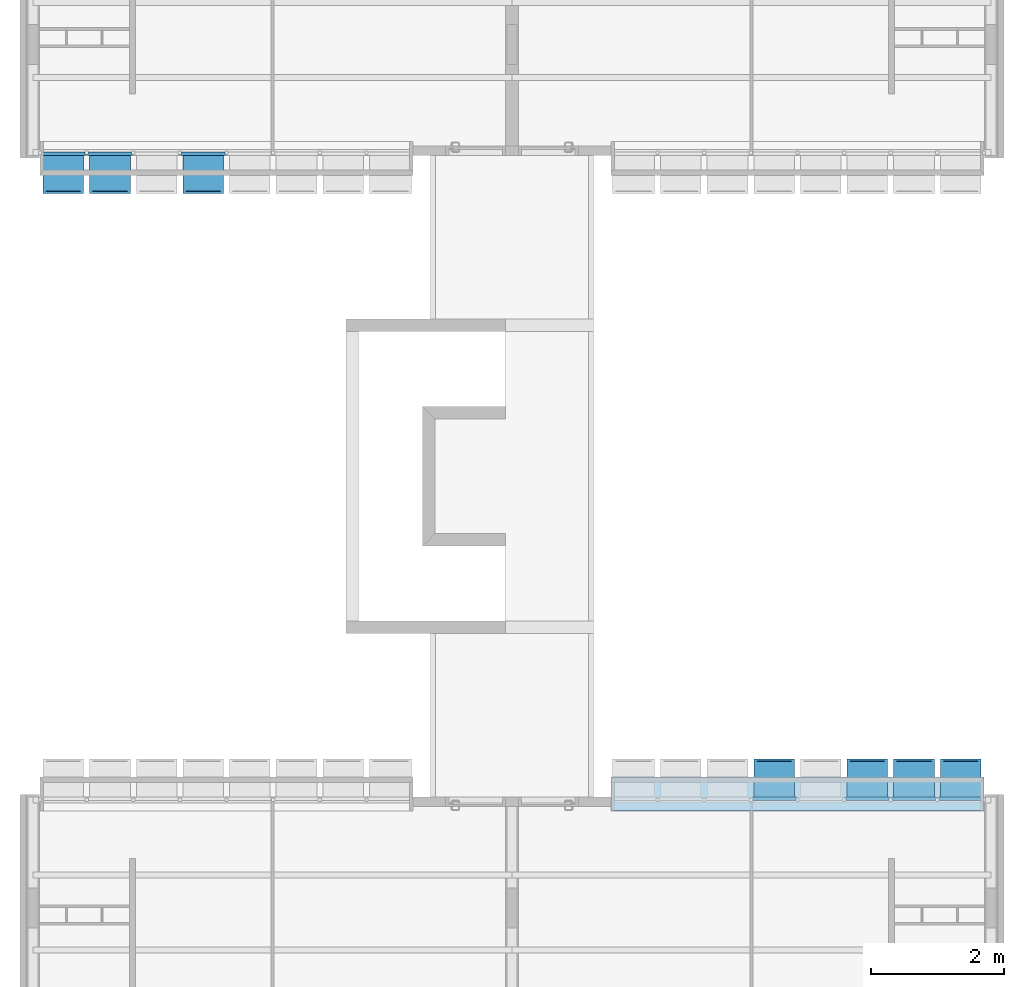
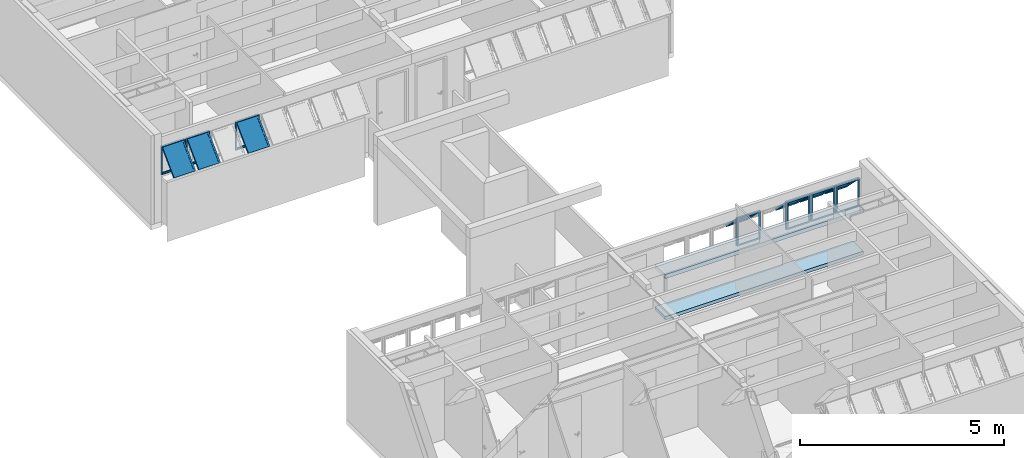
# One storey, part 10 of 40: 7 plates, 2 slabs, 2 elements without a shape of their own.
"""IFC4 building model written with IfcOpenShell, lengths in millimetres."""

from ifc_helpers import new_model, entity, si_unit, converted_unit, derived_unit, direction, frame, origin_with_axes, place, context, subcontext, project, spatial, line, indexed_curve, outline, extrude, polygons, source, transform, mapped, material, layer, layer_set, layer_usage, constituent, constituent_set, type_object, element, aggregate, save


model = new_model("IFC4")

# Units and contexts
model_context = context("Model", 3, precision=0.01, world=origin_with_axes(), true_north=direction((0.0, 1.0)))
body_context = subcontext(model_context, "Body", "Model", "MODEL_VIEW")
ifc_project = project(units=[si_unit("LENGTHUNIT", "METRE", prefix="MILLI"), si_unit("AREAUNIT", "SQUARE_METRE"), si_unit("VOLUMEUNIT", "CUBIC_METRE"), converted_unit("PLANEANGLEUNIT", "DEGREE", entity("IfcPlaneAngleMeasure", 0.0174532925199), si_unit("PLANEANGLEUNIT", "RADIAN"), dimensions=[0, 0, 0, 0, 0, 0, 0]), converted_unit("TIMEUNIT", "Year", entity("IfcTimeMeasure", 31556926.0), si_unit("TIMEUNIT", "SECOND"), dimensions=[0, 0, 1, 0, 0, 0, 0]), si_unit("MASSUNIT", "GRAM", prefix="KILO"), si_unit("THERMODYNAMICTEMPERATUREUNIT", "DEGREE_CELSIUS"), si_unit("LUMINOUSINTENSITYUNIT", "LUMEN"), si_unit("ENERGYUNIT", "JOULE", prefix="MEGA"), derived_unit("THERMALCONDUCTANCEUNIT", [(si_unit("POWERUNIT", "WATT"), 1), (si_unit("LENGTHUNIT", "METRE"), -1), (si_unit("THERMODYNAMICTEMPERATUREUNIT", "KELVIN"), -1)]), derived_unit("SPECIFICHEATCAPACITYUNIT", [(si_unit("ENERGYUNIT", "JOULE"), 1), (si_unit("MASSUNIT", "GRAM", prefix="KILO"), -1), (si_unit("THERMODYNAMICTEMPERATUREUNIT", "KELVIN"), -1)]), derived_unit("MASSDENSITYUNIT", [(si_unit("MASSUNIT", "GRAM", prefix="KILO"), 1), (si_unit("VOLUMEUNIT", "CUBIC_METRE"), -1)])], contexts=[model_context])

# Site, building, storey
site_placement = place(None, origin_with_axes())
site = spatial("IfcSite", under=ifc_project, at=site_placement, Name="Local", CompositionType="ELEMENT")
building_placement = place(site_placement, origin_with_axes())
building = spatial("IfcBuilding", under=site, at=building_placement, Name="Construção", CompositionType="ELEMENT")
storey_placement = place(building_placement, frame((0.0, 0.0, 5300.0), z_axis=(0.0, 0.0, 1.0), x_axis=(1.0, 0.0, 0.0)))
storey = spatial("IfcBuildingStorey", under=building, at=storey_placement, Name="Terceiro Pavimento", CompositionType="ELEMENT", Elevation=5300.0)

# Slab
ifc_material_1 = material(Name="Concreto Armado Moldado in Loco - Estrutural")
ifc_layer_1 = layer(ifc_material_1, 120.0, ventilated="UNKNOWN", Name="Concreto Armado Moldado in Loco - Estrutural")
ifc_layer_set_1 = layer_set([ifc_layer_1], Name="Concreto Armado Moldado in Loco - Estrutural 120")
ifc_layer_usage_1 = layer_usage(ifc_layer_set_1, "AXIS3", "NEGATIVE", 120.0)
slab_type_1 = type_object("IfcSlabType", Name="Concreto Armado Moldado in Loco - Estrutural 120", PredefinedType="FLOOR")
slab_1_placement = place(storey_placement, frame((14470.0, 8564.99999866, 1355.0), z_axis=(0.0, 0.0, 1.0), x_axis=(1.0, 0.0, 0.0)))
element("IfcSlab", 1, at=slab_1_placement, inside=storey, type_object=slab_type_1, material=ifc_layer_usage_1, Name="APTO10-LAJE-003", PredefinedType="FLOOR", context=body_context, shape_type="SweptSolid", body=[
    extrude(outline(indexed_curve([(0.0, 0.0), (-5600.0, 0.0), (-5600.0, -510.0), (0.0, -510.0)], segments=[line(1, 2, 3, 4, 1)])), frame((0.0, 0.0, -120.0), z_axis=(0.0, 0.0, 1.0), x_axis=(1.0, 0.0, 0.0)), (0.0, 0.0, 1.0), 120.0),
])

# Window, plate
window_type = type_object("IfcWindowType", Name="Tipo de Parede Cortina", PartitioningType="NOTDEFINED", PredefinedType="NOTDEFINED")
window_1_placement = place(storey_placement, frame((2750.0, 17910.0, 1355.00007107), z_axis=(0.0, 0.0, 1.0), x_axis=(1.0, 0.0, 0.0)))
window_1 = element("IfcWindow", 2, at=window_1_placement, inside=storey, type_object=window_type, Name="APTO11-JANELA-000", PredefinedType="NOTDEFINED")
ifc_material_2 = material(Name="Alumínio")
ifc_constituent_1 = constituent(ifc_material_2, Name="Alumínio")
ifc_material_3 = material(Name="Vidro")
ifc_constituent_2 = constituent(ifc_material_3, Name="Vidro")
ifc_constituent_set_1 = constituent_set(constituents=[ifc_constituent_1, ifc_constituent_2])
plate_type = type_object("IfcPlateType", Name="Painel Principal 690 x 845 x 20", PredefinedType="CURTAIN_PANEL")
shared_shape_1 = source(origin_with_axes(), body_context, "Body", "Tessellation", [
    polygons([(25.0000036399, 0.0, -40.0), (674.999997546, 0.0, -40.0), (674.999997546, 0.0, -35.0), (25.0000036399, 0.0, -35.0), (70.0000036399, 45.0, -40.0), (629.999997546, 45.0, -40.0), (629.999997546, 45.0, -35.0), (70.0000036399, 45.0, -35.0)], [[[1, 2, 3, 4]], [[1, 5, 6, 2]], [[2, 6, 7, 3]], [[4, 3, 7, 8]], [[5, 1, 4, 8]], [[6, 5, 8, 7]]], closed=True),
    polygons([(674.999997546, 0.0, -40.0), (674.999997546, 844.999891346, -40.0), (674.999997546, 844.999891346, -35.0), (674.999997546, 0.0, -35.0), (629.999997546, 45.0, -40.0), (629.999997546, 799.999891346, -40.0), (629.999997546, 799.999891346, -35.0), (629.999997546, 45.0, -35.0)], [[[1, 2, 3, 4]], [[1, 5, 6, 2]], [[2, 6, 7, 3]], [[4, 3, 7, 8]], [[5, 1, 4, 8]], [[6, 5, 8, 7]]], closed=True),
    polygons([(25.0000036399, 844.999891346, -40.0), (70.0000036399, 799.999891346, -40.0), (70.0000036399, 799.999891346, -35.0), (25.0000036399, 844.999891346, -35.0), (674.999997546, 844.999891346, -40.0), (629.999997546, 799.999891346, -40.0), (629.999997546, 799.999891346, -35.0), (674.999997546, 844.999891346, -35.0)], [[[1, 2, 3, 4]], [[1, 5, 6, 2]], [[2, 6, 7, 3]], [[4, 3, 7, 8]], [[5, 1, 4, 8]], [[6, 5, 8, 7]]], closed=True),
    polygons([(25.0000036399, 0.0, -40.0), (70.0000036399, 45.0, -40.0), (70.0000036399, 45.0, -35.0), (25.0000036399, 0.0, -35.0), (25.0000036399, 844.999891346, -40.0), (70.0000036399, 799.999891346, -40.0), (70.0000036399, 799.999891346, -35.0), (25.0000036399, 844.999891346, -35.0)], [[[1, 2, 3, 4]], [[1, 5, 6, 2]], [[2, 6, 7, 3]], [[4, 3, 7, 8]], [[5, 1, 4, 8]], [[6, 5, 8, 7]]], closed=True),
    polygons([(25.0000036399, 0.0, -35.0), (674.999997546, 0.0, -35.0), (674.999997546, 0.0, 15.0), (25.0000036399, 0.0, 15.0), (45.0000036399, 20.0, -35.0), (654.999997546, 20.0, -35.0), (654.999997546, 20.0, 15.0), (45.0000036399, 20.0, 15.0)], [[[1, 2, 3, 4]], [[1, 5, 6, 2]], [[2, 6, 7, 3]], [[4, 3, 7, 8]], [[5, 1, 4, 8]], [[6, 5, 8, 7]]], closed=True),
    polygons([(674.999997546, 0.0, -35.0), (674.999997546, 844.999891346, -35.0), (674.999997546, 844.999891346, 15.0), (674.999997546, 0.0, 15.0), (654.999997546, 20.0, -35.0), (654.999997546, 824.999891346, -35.0), (654.999997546, 824.999891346, 15.0), (654.999997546, 20.0, 15.0)], [[[1, 2, 3, 4]], [[1, 5, 6, 2]], [[2, 6, 7, 3]], [[4, 3, 7, 8]], [[5, 1, 4, 8]], [[6, 5, 8, 7]]], closed=True),
    polygons([(25.0000036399, 844.999891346, -35.0), (45.0000036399, 824.999891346, -35.0), (45.0000036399, 824.999891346, 15.0), (25.0000036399, 844.999891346, 15.0), (674.999997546, 844.999891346, -35.0), (654.999997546, 824.999891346, -35.0), (654.999997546, 824.999891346, 15.0), (674.999997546, 844.999891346, 15.0)], [[[1, 2, 3, 4]], [[1, 5, 6, 2]], [[2, 6, 7, 3]], [[4, 3, 7, 8]], [[5, 1, 4, 8]], [[6, 5, 8, 7]]], closed=True),
    polygons([(25.0000036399, 0.0, -35.0), (45.0000036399, 20.0, -35.0), (45.0000036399, 20.0, 15.0), (25.0000036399, 0.0, 15.0), (25.0000036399, 844.999891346, -35.0), (45.0000036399, 824.999891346, -35.0), (45.0000036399, 824.999891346, 15.0), (25.0000036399, 844.999891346, 15.0)], [[[1, 2, 3, 4]], [[1, 5, 6, 2]], [[2, 6, 7, 3]], [[4, 3, 7, 8]], [[5, 1, 4, 8]], [[6, 5, 8, 7]]], closed=True),
    polygons([(694.999995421, 0.0, -10.0), (694.999995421, 844.999891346, -10.0), (694.999995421, 844.999891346, 10.0), (694.999995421, 0.0, 10.0), (674.999997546, 0.0, -10.0), (674.999997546, 844.999891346, -10.0), (674.999997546, 844.999891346, 10.0), (674.999997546, 0.0, 10.0)], [[[1, 2, 3, 4]], [[1, 5, 6, 2]], [[2, 6, 7, 3]], [[4, 3, 7, 8]], [[5, 1, 4, 8]], [[6, 5, 8, 7]]], closed=True),
    polygons([(5.00000576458, 844.999891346, -10.0), (5.00000576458, 0.0, -10.0), (5.00000576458, 0.0, 10.0), (5.00000576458, 844.999891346, 10.0), (25.0000036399, 844.999891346, -10.0), (25.0000036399, 0.0, -10.0), (25.0000036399, 0.0, 10.0), (25.0000036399, 844.999891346, 10.0)], [[[1, 2, 3, 4]], [[1, 5, 6, 2]], [[2, 6, 7, 3]], [[4, 3, 7, 8]], [[5, 1, 4, 8]], [[6, 5, 8, 7]]], closed=True),
    polygons([(90.0000036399, 252.243475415, 517.045737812), (90.0000036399, 757.824747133, 11.4644660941), (90.0000036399, 796.715620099, 50.3553390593), (90.0000036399, 291.13434838, 555.936610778), (45.0000036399, 220.423670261, 548.865542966), (45.0000036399, 789.644552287, -20.3553390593), (45.0000036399, 828.535425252, 18.5355339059), (45.0000036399, 259.314543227, 587.756415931)], [[[1, 2, 3, 4]], [[1, 5, 6, 2]], [[2, 6, 7, 3]], [[4, 3, 7, 8]], [[5, 1, 4, 8]], [[6, 5, 8, 7]]], closed=True),
    polygons([(654.999997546, 220.423670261, 548.865542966), (654.999997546, 789.644552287, -20.3553390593), (654.999997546, 828.535425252, 18.5355339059), (654.999997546, 259.314543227, 587.756415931), (609.999997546, 252.243475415, 517.045737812), (609.999997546, 757.824747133, 11.4644660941), (609.999997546, 796.715620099, 50.3553390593), (609.999997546, 291.13434838, 555.936610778)], [[[1, 2, 3, 4]], [[1, 5, 6, 2]], [[2, 6, 7, 3]], [[4, 3, 7, 8]], [[5, 1, 4, 8]], [[6, 5, 8, 7]]], closed=True),
    polygons([(654.999997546, 220.423670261, 548.865542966), (609.999997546, 252.243475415, 517.045737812), (609.999997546, 291.13434838, 555.936610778), (654.999997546, 259.314543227, 587.756415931), (45.0000036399, 220.423670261, 548.865542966), (90.0000036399, 252.243475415, 517.045737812), (90.0000036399, 291.13434838, 555.936610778), (45.0000036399, 259.314543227, 587.756415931)], [[[1, 2, 3, 4]], [[1, 5, 6, 2]], [[2, 6, 7, 3]], [[4, 3, 7, 8]], [[5, 1, 4, 8]], [[6, 5, 8, 7]]], closed=True),
    polygons([(45.0000036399, 789.644552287, -20.3553390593), (90.0000036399, 757.824747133, 11.4644660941), (90.0000036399, 796.715620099, 50.3553390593), (45.0000036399, 828.535425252, 18.5355339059), (654.999997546, 789.644552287, -20.3553390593), (609.999997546, 757.824747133, 11.4644660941), (609.999997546, 796.715620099, 50.3553390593), (654.999997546, 828.535425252, 18.5355339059)], [[[1, 2, 3, 4]], [[1, 5, 6, 2]], [[2, 6, 7, 3]], [[4, 3, 7, 8]], [[5, 1, 4, 8]], [[6, 5, 8, 7]]], closed=True),
    polygons([(90.0000036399, 272.749572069, 537.551834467), (609.999997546, 272.749572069, 537.551834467), (609.999997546, 284.063280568, 548.865542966), (90.0000036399, 284.063280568, 548.865542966), (90.0000036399, 778.330843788, 31.9705627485), (609.999997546, 778.330843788, 31.9705627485), (609.999997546, 789.644552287, 43.2842712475), (90.0000036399, 789.644552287, 43.2842712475)], [[[1, 2, 3, 4]], [[1, 5, 6, 2]], [[2, 6, 7, 3]], [[4, 3, 7, 8]], [[5, 1, 4, 8]], [[6, 5, 8, 7]]], closed=True),
])
plate_1_placement = place(window_1_placement, frame((0.0, 0.0, 422.499964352), z_axis=(0.0, 0.0, 1.0), x_axis=(-1.0, 0.0, 0.0)))
plate_1 = element("IfcPlate", 3, at=plate_1_placement, type_object=plate_type, material=ifc_constituent_set_1, Name="APTO11-Painel-Prin-013", PredefinedType="CURTAIN_PANEL", context=body_context, shape_type="MappedRepresentation", body=[
    mapped(shared_shape_1, transform((350.0, 0.0, -422.499964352), x_axis=(-1.0, 0.0, 0.0), y_axis=(0.0, 0.0, 1.0), z_axis=(0.0, 1.0, 0.0))),
])

# Window, plates
window_2_placement = place(storey_placement, frame((12020.0, 8250.0, 1355.00007107), z_axis=(0.0, 0.0, 1.0), x_axis=(1.0, 0.0, 0.0)))
window_2 = element("IfcWindow", 4, at=window_2_placement, inside=storey, type_object=window_type, Name="APTO10-JANELA-000", PredefinedType="NOTDEFINED")
ifc_constituent_3 = constituent(ifc_material_2, Name="Alumínio")
ifc_constituent_4 = constituent(ifc_material_3, Name="Vidro")
ifc_constituent_set_2 = constituent_set(constituents=[ifc_constituent_3, ifc_constituent_4])
shared_shape_2 = source(origin_with_axes(), body_context, "Body", "Tessellation", [
    polygons([(25.0000036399, 0.0, -40.0), (674.999997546, 0.0, -40.0), (674.999997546, 0.0, -35.0), (25.0000036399, 0.0, -35.0), (70.0000036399, 45.0, -40.0), (629.999997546, 45.0, -40.0), (629.999997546, 45.0, -35.0), (70.0000036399, 45.0, -35.0)], [[[1, 2, 3, 4]], [[1, 5, 6, 2]], [[2, 6, 7, 3]], [[4, 3, 7, 8]], [[5, 1, 4, 8]], [[6, 5, 8, 7]]], closed=True),
    polygons([(674.999997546, 0.0, -40.0), (674.999997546, 844.999891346, -40.0), (674.999997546, 844.999891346, -35.0), (674.999997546, 0.0, -35.0), (629.999997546, 45.0, -40.0), (629.999997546, 799.999891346, -40.0), (629.999997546, 799.999891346, -35.0), (629.999997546, 45.0, -35.0)], [[[1, 2, 3, 4]], [[1, 5, 6, 2]], [[2, 6, 7, 3]], [[4, 3, 7, 8]], [[5, 1, 4, 8]], [[6, 5, 8, 7]]], closed=True),
    polygons([(25.0000036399, 844.999891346, -40.0), (70.0000036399, 799.999891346, -40.0), (70.0000036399, 799.999891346, -35.0), (25.0000036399, 844.999891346, -35.0), (674.999997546, 844.999891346, -40.0), (629.999997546, 799.999891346, -40.0), (629.999997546, 799.999891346, -35.0), (674.999997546, 844.999891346, -35.0)], [[[1, 2, 3, 4]], [[1, 5, 6, 2]], [[2, 6, 7, 3]], [[4, 3, 7, 8]], [[5, 1, 4, 8]], [[6, 5, 8, 7]]], closed=True),
    polygons([(25.0000036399, 0.0, -40.0), (70.0000036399, 45.0, -40.0), (70.0000036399, 45.0, -35.0), (25.0000036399, 0.0, -35.0), (25.0000036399, 844.999891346, -40.0), (70.0000036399, 799.999891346, -40.0), (70.0000036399, 799.999891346, -35.0), (25.0000036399, 844.999891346, -35.0)], [[[1, 2, 3, 4]], [[1, 5, 6, 2]], [[2, 6, 7, 3]], [[4, 3, 7, 8]], [[5, 1, 4, 8]], [[6, 5, 8, 7]]], closed=True),
    polygons([(25.0000036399, 0.0, -35.0), (674.999997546, 0.0, -35.0), (674.999997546, 0.0, 15.0), (25.0000036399, 0.0, 15.0), (45.0000036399, 20.0, -35.0), (654.999997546, 20.0, -35.0), (654.999997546, 20.0, 15.0), (45.0000036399, 20.0, 15.0)], [[[1, 2, 3, 4]], [[1, 5, 6, 2]], [[2, 6, 7, 3]], [[4, 3, 7, 8]], [[5, 1, 4, 8]], [[6, 5, 8, 7]]], closed=True),
    polygons([(674.999997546, 0.0, -35.0), (674.999997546, 844.999891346, -35.0), (674.999997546, 844.999891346, 15.0), (674.999997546, 0.0, 15.0), (654.999997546, 20.0, -35.0), (654.999997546, 824.999891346, -35.0), (654.999997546, 824.999891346, 15.0), (654.999997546, 20.0, 15.0)], [[[1, 2, 3, 4]], [[1, 5, 6, 2]], [[2, 6, 7, 3]], [[4, 3, 7, 8]], [[5, 1, 4, 8]], [[6, 5, 8, 7]]], closed=True),
    polygons([(25.0000036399, 844.999891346, -35.0), (45.0000036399, 824.999891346, -35.0), (45.0000036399, 824.999891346, 15.0), (25.0000036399, 844.999891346, 15.0), (674.999997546, 844.999891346, -35.0), (654.999997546, 824.999891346, -35.0), (654.999997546, 824.999891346, 15.0), (674.999997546, 844.999891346, 15.0)], [[[1, 2, 3, 4]], [[1, 5, 6, 2]], [[2, 6, 7, 3]], [[4, 3, 7, 8]], [[5, 1, 4, 8]], [[6, 5, 8, 7]]], closed=True),
    polygons([(25.0000036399, 0.0, -35.0), (45.0000036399, 20.0, -35.0), (45.0000036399, 20.0, 15.0), (25.0000036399, 0.0, 15.0), (25.0000036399, 844.999891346, -35.0), (45.0000036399, 824.999891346, -35.0), (45.0000036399, 824.999891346, 15.0), (25.0000036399, 844.999891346, 15.0)], [[[1, 2, 3, 4]], [[1, 5, 6, 2]], [[2, 6, 7, 3]], [[4, 3, 7, 8]], [[5, 1, 4, 8]], [[6, 5, 8, 7]]], closed=True),
    polygons([(694.999995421, 0.0, -10.0), (694.999995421, 844.999891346, -10.0), (694.999995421, 844.999891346, 10.0), (694.999995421, 0.0, 10.0), (674.999997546, 0.0, -10.0), (674.999997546, 844.999891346, -10.0), (674.999997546, 844.999891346, 10.0), (674.999997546, 0.0, 10.0)], [[[1, 2, 3, 4]], [[1, 5, 6, 2]], [[2, 6, 7, 3]], [[4, 3, 7, 8]], [[5, 1, 4, 8]], [[6, 5, 8, 7]]], closed=True),
    polygons([(5.00000576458, 844.999891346, -10.0), (5.00000576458, 0.0, -10.0), (5.00000576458, 0.0, 10.0), (5.00000576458, 844.999891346, 10.0), (25.0000036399, 844.999891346, -10.0), (25.0000036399, 0.0, -10.0), (25.0000036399, 0.0, 10.0), (25.0000036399, 844.999891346, 10.0)], [[[1, 2, 3, 4]], [[1, 5, 6, 2]], [[2, 6, 7, 3]], [[4, 3, 7, 8]], [[5, 1, 4, 8]], [[6, 5, 8, 7]]], closed=True),
    polygons([(90.0000036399, 252.243475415, 517.045737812), (90.0000036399, 757.824747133, 11.4644660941), (90.0000036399, 796.715620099, 50.3553390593), (90.0000036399, 291.13434838, 555.936610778), (45.0000036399, 220.423670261, 548.865542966), (45.0000036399, 789.644552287, -20.3553390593), (45.0000036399, 828.535425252, 18.5355339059), (45.0000036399, 259.314543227, 587.756415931)], [[[1, 2, 3, 4]], [[1, 5, 6, 2]], [[2, 6, 7, 3]], [[4, 3, 7, 8]], [[5, 1, 4, 8]], [[6, 5, 8, 7]]], closed=True),
    polygons([(654.999997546, 220.423670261, 548.865542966), (654.999997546, 789.644552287, -20.3553390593), (654.999997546, 828.535425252, 18.5355339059), (654.999997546, 259.314543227, 587.756415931), (609.999997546, 252.243475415, 517.045737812), (609.999997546, 757.824747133, 11.4644660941), (609.999997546, 796.715620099, 50.3553390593), (609.999997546, 291.13434838, 555.936610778)], [[[1, 2, 3, 4]], [[1, 5, 6, 2]], [[2, 6, 7, 3]], [[4, 3, 7, 8]], [[5, 1, 4, 8]], [[6, 5, 8, 7]]], closed=True),
    polygons([(654.999997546, 220.423670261, 548.865542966), (609.999997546, 252.243475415, 517.045737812), (609.999997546, 291.13434838, 555.936610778), (654.999997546, 259.314543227, 587.756415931), (45.0000036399, 220.423670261, 548.865542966), (90.0000036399, 252.243475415, 517.045737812), (90.0000036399, 291.13434838, 555.936610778), (45.0000036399, 259.314543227, 587.756415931)], [[[1, 2, 3, 4]], [[1, 5, 6, 2]], [[2, 6, 7, 3]], [[4, 3, 7, 8]], [[5, 1, 4, 8]], [[6, 5, 8, 7]]], closed=True),
    polygons([(45.0000036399, 789.644552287, -20.3553390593), (90.0000036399, 757.824747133, 11.4644660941), (90.0000036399, 796.715620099, 50.3553390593), (45.0000036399, 828.535425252, 18.5355339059), (654.999997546, 789.644552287, -20.3553390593), (609.999997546, 757.824747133, 11.4644660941), (609.999997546, 796.715620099, 50.3553390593), (654.999997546, 828.535425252, 18.5355339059)], [[[1, 2, 3, 4]], [[1, 5, 6, 2]], [[2, 6, 7, 3]], [[4, 3, 7, 8]], [[5, 1, 4, 8]], [[6, 5, 8, 7]]], closed=True),
    polygons([(90.0000036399, 272.749572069, 537.551834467), (609.999997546, 272.749572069, 537.551834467), (609.999997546, 284.063280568, 548.865542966), (90.0000036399, 284.063280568, 548.865542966), (90.0000036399, 778.330843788, 31.9705627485), (609.999997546, 778.330843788, 31.9705627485), (609.999997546, 789.644552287, 43.2842712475), (90.0000036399, 789.644552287, 43.2842712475)], [[[1, 2, 3, 4]], [[1, 5, 6, 2]], [[2, 6, 7, 3]], [[4, 3, 7, 8]], [[5, 1, 4, 8]], [[6, 5, 8, 7]]], closed=True),
])
plate_2_placement = place(window_2_placement, frame((2100.0, 0.0, 422.499998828), z_axis=(0.0, 0.0, 1.0), x_axis=(1.0, 0.0, 0.0)))
plate_2 = element("IfcPlate", 5, at=plate_2_placement, type_object=plate_type, material=ifc_constituent_set_2, Name="APTO10-Painel-Prin-013", PredefinedType="CURTAIN_PANEL", context=body_context, shape_type="MappedRepresentation", body=[
    mapped(shared_shape_2, transform((350.0, 0.0, -422.499998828), x_axis=(-1.0, 0.0, 0.0), y_axis=(0.0, 0.0, 1.0), z_axis=(0.0, 1.0, 0.0))),
])
ifc_constituent_5 = constituent(ifc_material_2, Name="Alumínio")
ifc_constituent_6 = constituent(ifc_material_3, Name="Vidro")
ifc_constituent_set_3 = constituent_set(constituents=[ifc_constituent_5, ifc_constituent_6])
plate_3_placement = place(window_2_placement, frame((1400.0, 0.0, 422.499964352), z_axis=(0.0, 0.0, 1.0), x_axis=(1.0, 0.0, 0.0)))
plate_3 = element("IfcPlate", 6, at=plate_3_placement, type_object=plate_type, material=ifc_constituent_set_3, Name="APTO10-Painel-Prin-013", PredefinedType="CURTAIN_PANEL", context=body_context, shape_type="MappedRepresentation", body=[
    mapped(shared_shape_2, transform((350.0, 0.0, -422.499964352), x_axis=(-1.0, 0.0, 0.0), y_axis=(0.0, 0.0, 1.0), z_axis=(0.0, 1.0, 0.0))),
])

# Plate
ifc_constituent_7 = constituent(ifc_material_2, Name="Alumínio")
ifc_constituent_8 = constituent(ifc_material_3, Name="Vidro")
ifc_constituent_set_4 = constituent_set(constituents=[ifc_constituent_7, ifc_constituent_8])
plate_4_placement = place(window_1_placement, frame((-2100.0, 0.0, 422.499998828), z_axis=(0.0, 0.0, 1.0), x_axis=(-1.0, 0.0, 0.0)))
plate_4 = element("IfcPlate", 7, at=plate_4_placement, type_object=plate_type, material=ifc_constituent_set_4, Name="APTO11-Painel-Prin-013", PredefinedType="CURTAIN_PANEL", context=body_context, shape_type="MappedRepresentation", body=[
    mapped(shared_shape_2, transform((350.0, 0.0, -422.499998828), x_axis=(-1.0, 0.0, 0.0), y_axis=(0.0, 0.0, 1.0), z_axis=(0.0, 1.0, 0.0))),
])

ifc_constituent_9 = constituent(ifc_material_2, Name="Alumínio")
ifc_constituent_10 = constituent(ifc_material_3, Name="Vidro")
ifc_constituent_set_5 = constituent_set(constituents=[ifc_constituent_9, ifc_constituent_10])
plate_5_placement = place(window_1_placement, frame((-1400.0, 0.0, 422.499964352), z_axis=(0.0, 0.0, 1.0), x_axis=(-1.0, 0.0, 0.0)))
plate_5 = element("IfcPlate", 8, at=plate_5_placement, type_object=plate_type, material=ifc_constituent_set_5, Name="APTO11-Painel-Prin-013", PredefinedType="CURTAIN_PANEL", context=body_context, shape_type="MappedRepresentation", body=[
    mapped(shared_shape_2, transform((350.0, 0.0, -422.499964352), x_axis=(-1.0, 0.0, 0.0), y_axis=(0.0, 0.0, 1.0), z_axis=(0.0, 1.0, 0.0))),
])

aggregate(window_1, [plate_1, plate_4, plate_5])

ifc_constituent_11 = constituent(ifc_material_2, Name="Alumínio")
ifc_constituent_12 = constituent(ifc_material_3, Name="Vidro")
ifc_constituent_set_6 = constituent_set(constituents=[ifc_constituent_11, ifc_constituent_12])
shared_shape_3 = source(origin_with_axes(), body_context, "Body", "Tessellation", [
    polygons([(25.0000036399, 0.0, -40.0), (674.999997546, 0.0, -40.0), (674.999997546, 0.0, -35.0), (25.0000036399, 0.0, -35.0), (70.0000036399, 45.0, -40.0), (629.999997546, 45.0, -40.0), (629.999997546, 45.0, -35.0), (70.0000036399, 45.0, -35.0)], [[[1, 2, 3, 4]], [[1, 5, 6, 2]], [[2, 6, 7, 3]], [[4, 3, 7, 8]], [[5, 1, 4, 8]], [[6, 5, 8, 7]]], closed=True),
    polygons([(674.999997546, 0.0, -40.0), (674.999997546, 844.999891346, -40.0), (674.999997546, 844.999891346, -35.0), (674.999997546, 0.0, -35.0), (629.999997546, 45.0, -40.0), (629.999997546, 799.999891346, -40.0), (629.999997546, 799.999891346, -35.0), (629.999997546, 45.0, -35.0)], [[[1, 2, 3, 4]], [[1, 5, 6, 2]], [[2, 6, 7, 3]], [[4, 3, 7, 8]], [[5, 1, 4, 8]], [[6, 5, 8, 7]]], closed=True),
    polygons([(25.0000036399, 844.999891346, -40.0), (70.0000036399, 799.999891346, -40.0), (70.0000036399, 799.999891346, -35.0), (25.0000036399, 844.999891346, -35.0), (674.999997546, 844.999891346, -40.0), (629.999997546, 799.999891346, -40.0), (629.999997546, 799.999891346, -35.0), (674.999997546, 844.999891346, -35.0)], [[[1, 2, 3, 4]], [[1, 5, 6, 2]], [[2, 6, 7, 3]], [[4, 3, 7, 8]], [[5, 1, 4, 8]], [[6, 5, 8, 7]]], closed=True),
    polygons([(25.0000036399, 0.0, -40.0), (70.0000036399, 45.0, -40.0), (70.0000036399, 45.0, -35.0), (25.0000036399, 0.0, -35.0), (25.0000036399, 844.999891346, -40.0), (70.0000036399, 799.999891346, -40.0), (70.0000036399, 799.999891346, -35.0), (25.0000036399, 844.999891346, -35.0)], [[[1, 2, 3, 4]], [[1, 5, 6, 2]], [[2, 6, 7, 3]], [[4, 3, 7, 8]], [[5, 1, 4, 8]], [[6, 5, 8, 7]]], closed=True),
    polygons([(25.0000036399, 0.0, -35.0), (674.999997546, 0.0, -35.0), (674.999997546, 0.0, 15.0), (25.0000036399, 0.0, 15.0), (45.0000036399, 20.0, -35.0), (654.999997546, 20.0, -35.0), (654.999997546, 20.0, 15.0), (45.0000036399, 20.0, 15.0)], [[[1, 2, 3, 4]], [[1, 5, 6, 2]], [[2, 6, 7, 3]], [[4, 3, 7, 8]], [[5, 1, 4, 8]], [[6, 5, 8, 7]]], closed=True),
    polygons([(674.999997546, 0.0, -35.0), (674.999997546, 844.999891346, -35.0), (674.999997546, 844.999891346, 15.0), (674.999997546, 0.0, 15.0), (654.999997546, 20.0, -35.0), (654.999997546, 824.999891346, -35.0), (654.999997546, 824.999891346, 15.0), (654.999997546, 20.0, 15.0)], [[[1, 2, 3, 4]], [[1, 5, 6, 2]], [[2, 6, 7, 3]], [[4, 3, 7, 8]], [[5, 1, 4, 8]], [[6, 5, 8, 7]]], closed=True),
    polygons([(25.0000036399, 844.999891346, -35.0), (45.0000036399, 824.999891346, -35.0), (45.0000036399, 824.999891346, 15.0), (25.0000036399, 844.999891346, 15.0), (674.999997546, 844.999891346, -35.0), (654.999997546, 824.999891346, -35.0), (654.999997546, 824.999891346, 15.0), (674.999997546, 844.999891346, 15.0)], [[[1, 2, 3, 4]], [[1, 5, 6, 2]], [[2, 6, 7, 3]], [[4, 3, 7, 8]], [[5, 1, 4, 8]], [[6, 5, 8, 7]]], closed=True),
    polygons([(25.0000036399, 0.0, -35.0), (45.0000036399, 20.0, -35.0), (45.0000036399, 20.0, 15.0), (25.0000036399, 0.0, 15.0), (25.0000036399, 844.999891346, -35.0), (45.0000036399, 824.999891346, -35.0), (45.0000036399, 824.999891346, 15.0), (25.0000036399, 844.999891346, 15.0)], [[[1, 2, 3, 4]], [[1, 5, 6, 2]], [[2, 6, 7, 3]], [[4, 3, 7, 8]], [[5, 1, 4, 8]], [[6, 5, 8, 7]]], closed=True),
    polygons([(694.999995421, 0.0, -10.0), (694.999995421, 844.999891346, -10.0), (694.999995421, 844.999891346, 10.0), (694.999995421, 0.0, 10.0), (674.999997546, 0.0, -10.0), (674.999997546, 844.999891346, -10.0), (674.999997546, 844.999891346, 10.0), (674.999997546, 0.0, 10.0)], [[[1, 2, 3, 4]], [[1, 5, 6, 2]], [[2, 6, 7, 3]], [[4, 3, 7, 8]], [[5, 1, 4, 8]], [[6, 5, 8, 7]]], closed=True),
    polygons([(5.00000576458, 844.999891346, -10.0), (5.00000576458, 0.0, -10.0), (5.00000576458, 0.0, 10.0), (5.00000576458, 844.999891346, 10.0), (25.0000036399, 844.999891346, -10.0), (25.0000036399, 0.0, -10.0), (25.0000036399, 0.0, 10.0), (25.0000036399, 844.999891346, 10.0)], [[[1, 2, 3, 4]], [[1, 5, 6, 2]], [[2, 6, 7, 3]], [[4, 3, 7, 8]], [[5, 1, 4, 8]], [[6, 5, 8, 7]]], closed=True),
    polygons([(90.0000036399, 252.243475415, 517.045737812), (90.0000036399, 757.824747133, 11.4644660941), (90.0000036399, 796.715620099, 50.3553390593), (90.0000036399, 291.13434838, 555.936610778), (45.0000036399, 220.423670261, 548.865542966), (45.0000036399, 789.644552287, -20.3553390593), (45.0000036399, 828.535425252, 18.5355339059), (45.0000036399, 259.314543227, 587.756415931)], [[[1, 2, 3, 4]], [[1, 5, 6, 2]], [[2, 6, 7, 3]], [[4, 3, 7, 8]], [[5, 1, 4, 8]], [[6, 5, 8, 7]]], closed=True),
    polygons([(654.999997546, 220.423670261, 548.865542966), (654.999997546, 789.644552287, -20.3553390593), (654.999997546, 828.535425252, 18.5355339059), (654.999997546, 259.314543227, 587.756415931), (609.999997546, 252.243475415, 517.045737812), (609.999997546, 757.824747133, 11.4644660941), (609.999997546, 796.715620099, 50.3553390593), (609.999997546, 291.13434838, 555.936610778)], [[[1, 2, 3, 4]], [[1, 5, 6, 2]], [[2, 6, 7, 3]], [[4, 3, 7, 8]], [[5, 1, 4, 8]], [[6, 5, 8, 7]]], closed=True),
    polygons([(654.999997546, 220.423670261, 548.865542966), (609.999997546, 252.243475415, 517.045737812), (609.999997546, 291.13434838, 555.936610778), (654.999997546, 259.314543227, 587.756415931), (45.0000036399, 220.423670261, 548.865542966), (90.0000036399, 252.243475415, 517.045737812), (90.0000036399, 291.13434838, 555.936610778), (45.0000036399, 259.314543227, 587.756415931)], [[[1, 2, 3, 4]], [[1, 5, 6, 2]], [[2, 6, 7, 3]], [[4, 3, 7, 8]], [[5, 1, 4, 8]], [[6, 5, 8, 7]]], closed=True),
    polygons([(45.0000036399, 789.644552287, -20.3553390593), (90.0000036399, 757.824747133, 11.4644660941), (90.0000036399, 796.715620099, 50.3553390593), (45.0000036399, 828.535425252, 18.5355339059), (654.999997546, 789.644552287, -20.3553390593), (609.999997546, 757.824747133, 11.4644660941), (609.999997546, 796.715620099, 50.3553390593), (654.999997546, 828.535425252, 18.5355339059)], [[[1, 2, 3, 4]], [[1, 5, 6, 2]], [[2, 6, 7, 3]], [[4, 3, 7, 8]], [[5, 1, 4, 8]], [[6, 5, 8, 7]]], closed=True),
    polygons([(90.0000036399, 272.749572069, 537.551834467), (609.999997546, 272.749572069, 537.551834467), (609.999997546, 284.063280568, 548.865542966), (90.0000036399, 284.063280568, 548.865542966), (90.0000036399, 778.330843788, 31.9705627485), (609.999997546, 778.330843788, 31.9705627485), (609.999997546, 789.644552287, 43.2842712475), (90.0000036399, 789.644552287, 43.2842712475)], [[[1, 2, 3, 4]], [[1, 5, 6, 2]], [[2, 6, 7, 3]], [[4, 3, 7, 8]], [[5, 1, 4, 8]], [[6, 5, 8, 7]]], closed=True),
])
plate_6_placement = place(window_2_placement, frame((-700.0, 0.0, 422.499964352), z_axis=(0.0, 0.0, 1.0), x_axis=(1.0, 0.0, 0.0)))
plate_6 = element("IfcPlate", 9, at=plate_6_placement, type_object=plate_type, material=ifc_constituent_set_6, Name="APTO10-Painel-Prin-013", PredefinedType="CURTAIN_PANEL", context=body_context, shape_type="MappedRepresentation", body=[
    mapped(shared_shape_3, transform((350.0, 0.0, -422.499964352), x_axis=(-1.0, 0.0, 0.0), y_axis=(0.0, 0.0, 1.0), z_axis=(0.0, 1.0, 0.0))),
])

ifc_constituent_13 = constituent(ifc_material_2, Name="Alumínio")
ifc_constituent_14 = constituent(ifc_material_3, Name="Vidro")
ifc_constituent_set_7 = constituent_set(constituents=[ifc_constituent_13, ifc_constituent_14])
plate_7_placement = place(window_2_placement, frame((700.0, 0.0, 422.499964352), z_axis=(0.0, 0.0, 1.0), x_axis=(1.0, 0.0, 0.0)))
plate_7 = element("IfcPlate", 10, at=plate_7_placement, type_object=plate_type, material=ifc_constituent_set_7, Name="APTO10-Painel-Prin-013", PredefinedType="CURTAIN_PANEL", context=body_context, shape_type="MappedRepresentation", body=[
    mapped(shared_shape_3, transform((350.0, 0.0, -422.499964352), x_axis=(-1.0, 0.0, 0.0), y_axis=(0.0, 0.0, 1.0), z_axis=(0.0, 1.0, 0.0))),
])

aggregate(window_2, [plate_2, plate_3, plate_6, plate_7])

# Slab
ifc_layer_2 = layer(ifc_material_1, 100.0, ventilated="UNKNOWN", Name="Concreto Armado Moldado in Loco - Estrutural")
ifc_layer_set_2 = layer_set([ifc_layer_2], Name="Concreto Armado Moldado in Loco - Estrutural 100")
ifc_layer_usage_2 = layer_usage(ifc_layer_set_2, "AXIS3", "NEGATIVE", 100.0)
slab_type_2 = type_object("IfcSlabType", Name="Concreto Armado Moldado in Loco - Estrutural 100", PredefinedType="FLOOR")
slab_2_placement = place(storey_placement, frame((14470.0, 8564.99999866, 100.0), z_axis=(0.0, 0.0, 1.0), x_axis=(1.0, 0.0, 0.0)))
element("IfcSlab", 11, at=slab_2_placement, inside=storey, type_object=slab_type_2, material=ifc_layer_usage_2, Name="APTO10-LAJE-004", PredefinedType="FLOOR", context=body_context, shape_type="SweptSolid", body=[
    extrude(outline(indexed_curve([(0.0, 0.0), (-5600.0, 0.0), (-5600.0, -510.0), (0.0, -510.0)], segments=[line(1, 2, 3, 4, 1)])), frame((0.0, 0.0, -100.0), z_axis=(0.0, 0.0, 1.0), x_axis=(1.0, 0.0, 0.0)), (0.0, 0.0, 1.0), 100.0),
])

save(model, "model.ifc")
